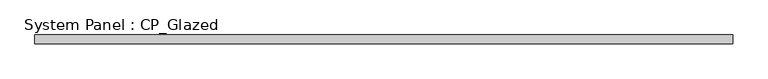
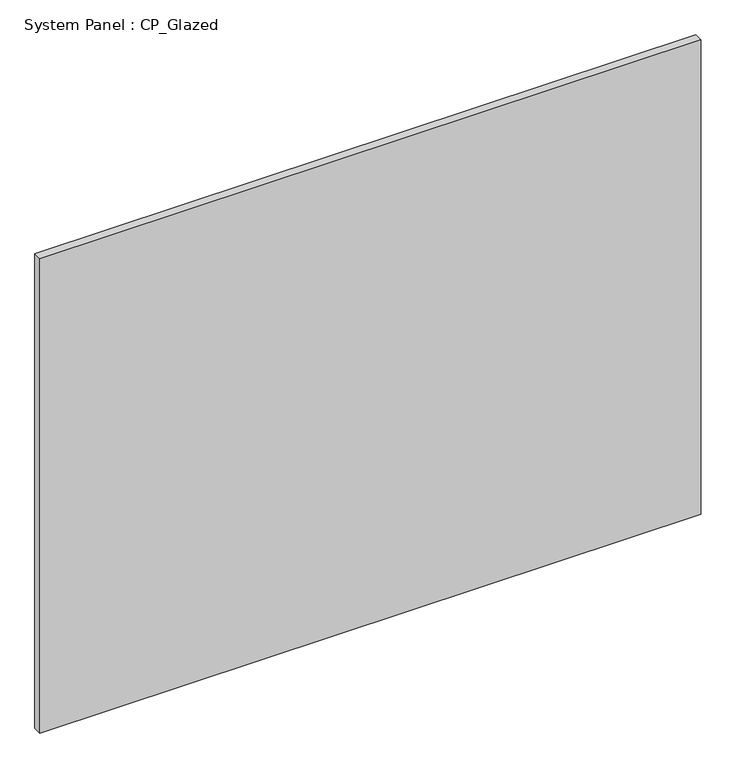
"""IFC4 building model written with IfcOpenShell, lengths in millimetres: plate geometry, System Panel : CP_Glazed."""

from ifc_helpers import new_model, si_unit, origin, origin_with_axes, place, context, project, spatial, polyline, outline, extrude, source, transform, mapped, element, save


def system_panel_cp_glazed_0faa9198(model_context):
    return source(origin(), model_context, "Body", "SweptSolid", [
        extrude(outline(polyline([(976.3125, 19.05), (-976.3125, 19.05), (-976.3125, 44.45), (976.3125, 44.45), (976.3125, 19.05)])), origin_with_axes(), (0.0, 0.0, 1.0), 1479.55),
    ])


if __name__ == "__main__":
    model = new_model("IFC4")
    model_context = context("Model", 3, world=origin())
    ifc_project = project(units=[si_unit("LENGTHUNIT", "METRE", prefix="MILLI")], contexts=[model_context])
    site = spatial("IfcSite", under=ifc_project)
    building = spatial("IfcBuilding", under=site)
    placement = place(None, origin())
    system_panel_cp_glazed_shape = system_panel_cp_glazed_0faa9198(model_context)
    element("IfcPlate", 1, ObjectType="System Panel : CP_Glazed", at=placement, inside=building, context=model_context, shape_type="MappedRepresentation", body=[
        mapped(system_panel_cp_glazed_shape, transform((0.0, 0.0, 0.0), x_axis=(1.0, 0.0, 0.0), y_axis=(0.0, 1.0, 0.0), z_axis=(0.0, 0.0, 1.0))),
    ])
    save(model, "model.ifc")
